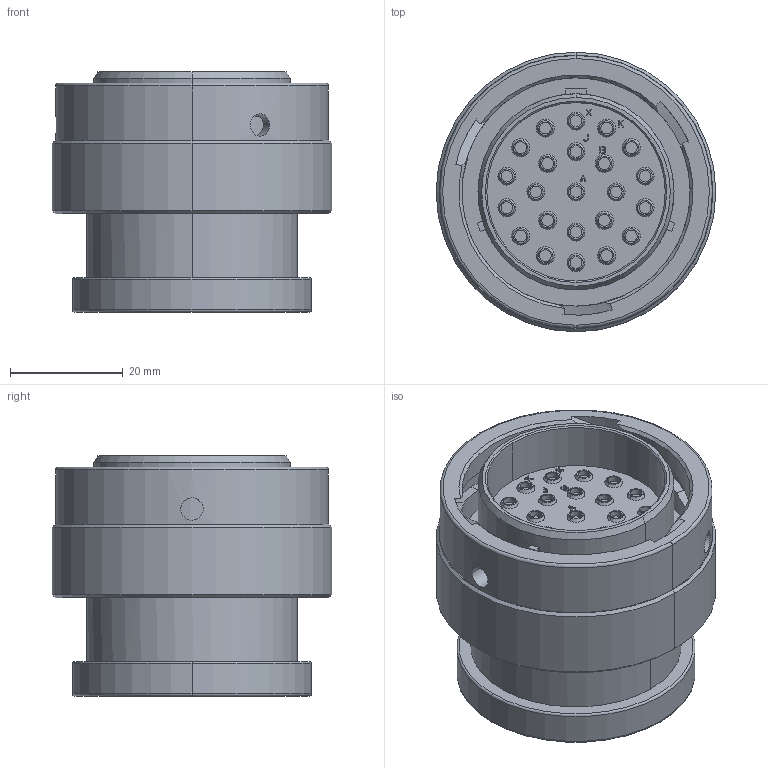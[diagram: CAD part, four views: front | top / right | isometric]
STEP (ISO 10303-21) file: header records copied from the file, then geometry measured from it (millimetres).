
FILE_DESCRIPTION((''),'2;1');
FILE_NAME('C-HDP26-24-23PT-L017','2013-06-27T',('workeradm'),('Tyco Electronics Ltd.'),'PRO/ENGINEER BY PARAMETRIC TECHNOLOGY CORPORATION, 2011490','PRO/ENGINEER BY PARAMETRIC TECHNOLOGY CORPORATION, 2011490','');
FILE_SCHEMA(('AUTOMOTIVE_DESIGN { 1 0 10303 214 1 1 1 1 }'));
Length unit declared in the file: millimetre
Products named in the file (1): C-HDP26-24-23PT-L017
Bounding box: 49.53 x 49.53 x 42.55 mm (x, y, z)
Volume: 50348.5 mm3; surface area: 16004.8 mm2
Topology: 1 solids, 1 shells, 552 faces, 1261 edges, 817 vertices
Faces by surface type: plane 225, cylinder 180, cone 57, torus 56, bspline 34
Entity records: 17973 total; most frequent: CARTESIAN_POINT 4913, DIRECTION 2755, ORIENTED_EDGE 2522, EDGE_CURVE 1261, AXIS2_PLACEMENT_3D 1081, VERTEX_POINT 817, EDGE_LOOP 664, VECTOR 593
